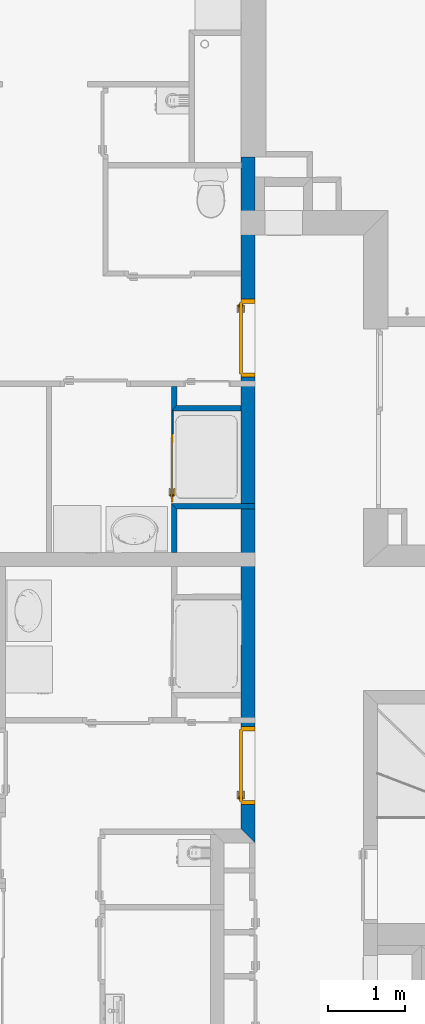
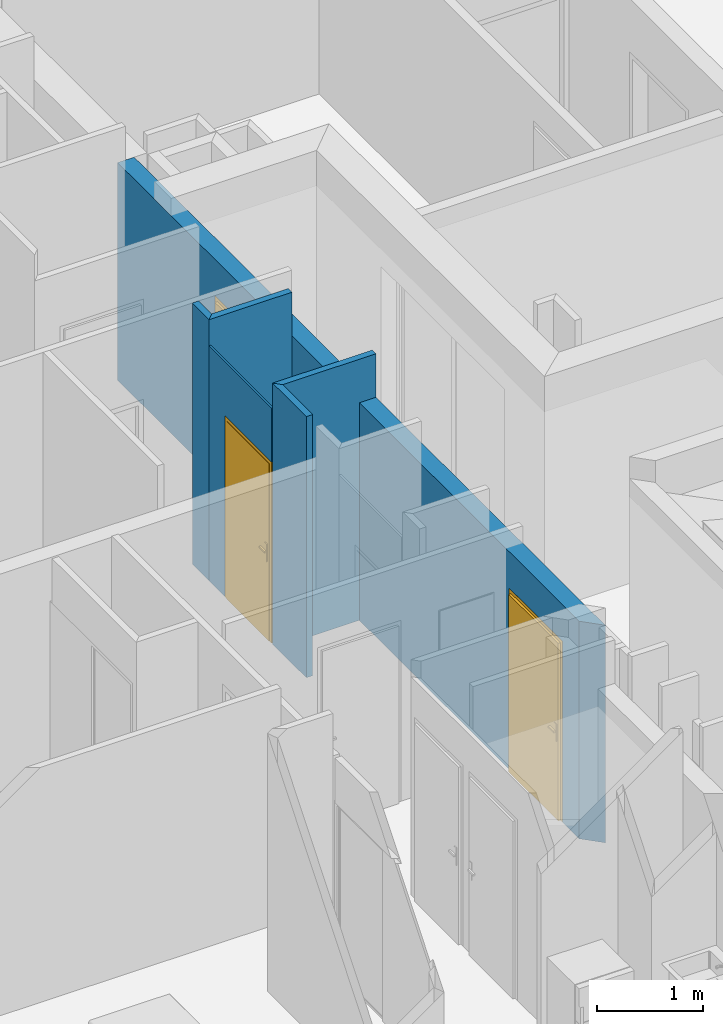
# One storey, part 51 of 171: 6 walls, 3 doors, 3 openings.
"""IFC2X3 building model written with IfcOpenShell, lengths in millimetres."""

from ifc_helpers import new_model, entity, si_unit, converted_unit, derived_unit, money_unit, direction, frame, origin_with_axes, origin_2d_with_axis, place, context, subcontext, project, spatial, polyline, rectangle, outline, extrude, faceted_brep, source, transform, mapped, material, layer, layer_set, layer_usage, type_object, element, fill, save


model = new_model("IFC2X3")

# Units and contexts
model_context = context("Model", 3, precision=0.01, world=origin_with_axes(), true_north=direction((0.0, 1.0)))
body_context = subcontext(model_context, "Body", "Model", "MODEL_VIEW")
ifc_project = project(units=[si_unit("LENGTHUNIT", "METRE", prefix="MILLI"), si_unit("AREAUNIT", "SQUARE_METRE"), si_unit("VOLUMEUNIT", "CUBIC_METRE"), converted_unit("PLANEANGLEUNIT", "DEGREE", entity("IfcPlaneAngleMeasure", 0.0174532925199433), si_unit("PLANEANGLEUNIT", "RADIAN"), dimensions=[0, 0, 0, 0, 0, 0, 0]), money_unit("USD"), converted_unit("TIMEUNIT", "Year", entity("IfcTimeMeasure", 31557600.0), si_unit("TIMEUNIT", "SECOND"), dimensions=[0, 0, 1, 0, 0, 0, 0]), si_unit("MASSUNIT", "GRAM", prefix="KILO"), si_unit("THERMODYNAMICTEMPERATUREUNIT", "DEGREE_CELSIUS"), si_unit("LUMINOUSINTENSITYUNIT", "LUMEN"), si_unit("ENERGYUNIT", "JOULE", prefix="MEGA"), derived_unit("THERMALCONDUCTANCEUNIT", [(si_unit("POWERUNIT", "WATT"), 1), (si_unit("LENGTHUNIT", "METRE"), -1), (si_unit("THERMODYNAMICTEMPERATUREUNIT", "KELVIN"), -1)]), derived_unit("SPECIFICHEATCAPACITYUNIT", [(si_unit("ENERGYUNIT", "JOULE"), 1), (si_unit("MASSUNIT", "GRAM", prefix="KILO"), -1), (si_unit("THERMODYNAMICTEMPERATUREUNIT", "KELVIN"), -1)]), derived_unit("MASSDENSITYUNIT", [(si_unit("MASSUNIT", "GRAM", prefix="KILO"), 1), (si_unit("VOLUMEUNIT", "CUBIC_METRE"), -1)])], contexts=[model_context])

# Site, building, storey
site_placement = place(None, origin_with_axes())
site = spatial("IfcSite", under=ifc_project, at=site_placement, Name="Site", CompositionType="ELEMENT")
building_placement = place(site_placement, origin_with_axes())
building = spatial("IfcBuilding", under=site, at=building_placement, Name="Bâtiment", CompositionType="ELEMENT")
storey_placement = place(building_placement, frame((0.0, 0.0, 3000.0), z_axis=(0.0, 0.0, 1.0), x_axis=(1.0, 0.0, 0.0)))
storey = spatial("IfcBuildingStorey", under=building, at=storey_placement, Name="rdc", CompositionType="ELEMENT", Elevation=3000.0)

# Wall, openings, doors
ifc_material_1 = material(Name="Parpaing 314940890")
ifc_layer_1 = layer(ifc_material_1, 180.0, ventilated="UNKNOWN")
ifc_layer_set_1 = layer_set([ifc_layer_1], Name="Beton  18 0018356637")
ifc_layer_usage_1 = layer_usage(ifc_layer_set_1, "AXIS2", "NEGATIVE", 0.0)
wall_type_1 = type_object("IfcWallType", Name="Beton  18 0018356637 180", PredefinedType="NOTDEFINED")
wall_1_placement = place(storey_placement, frame((2224312.317707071, -627247.3597870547, 0.0), z_axis=(0.0, 0.0, 1.0), x_axis=(9.28770174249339e-06, -0.9999999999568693, 0.0)))
wall_1 = element("IfcWallStandardCase", 1, at=wall_1_placement, inside=storey, type_object=wall_type_1, material=ifc_layer_usage_1, Name="Mur-143", context=body_context, shape_type="SweptSolid", body=[
    extrude(outline(polyline([(69.99832821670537, -179.9999999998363), (8759.937664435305, -179.9999999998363), (8939.939786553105, 0.0), (70.00000000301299, 0.0), (69.99832821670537, -179.9999999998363)])), origin_with_axes(), (0.0, 0.0, 1.0), 2500.0),
])
opening_1_placement = place(wall_1_placement, frame((2412.049602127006, 1.13686837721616e-10, 0.0), z_axis=(0.0, 0.0, 1.0), x_axis=(1.0, 0.0, 0.0)))
opening_1 = element("IfcOpeningElement", 2, at=opening_1_placement, cuts=wall_1, Name="Por-295", context=body_context, shape_type="SweptSolid", body=[
    extrude(rectangle(XDim=1010.00001192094, YDim=2080.0, at=origin_2d_with_axis()), frame((5.960465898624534e-06, 179.99999999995, 1040.0), z_axis=(0.0, 1.0, 0.0), x_axis=(1.0, 0.0, 0.0)), (0.0, 0.0, -1.0), 360.0),
])
opening_2_placement = place(wall_1_placement, frame((7941.747689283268, 0.0, 0.0), z_axis=(0.0, 0.0, 1.0), x_axis=(1.0, 0.0, 0.0)))
opening_2 = element("IfcOpeningElement", 3, at=opening_2_placement, cuts=wall_1, Name="Por-295", context=body_context, shape_type="SweptSolid", body=[
    extrude(rectangle(XDim=1010.00001192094, YDim=2080.0, at=origin_2d_with_axis()), frame((-5.960487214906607e-06, 179.99999999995, 1040.0), z_axis=(0.0, -1.0, 0.0), x_axis=(-1.0, 0.0, 0.0)), (0.0, 0.0, 1.0), 360.0),
])
door_style = type_object("IfcDoorStyle", Name="Porte_1v", ConstructionType="NOTDEFINED", OperationType="NOTDEFINED", ParameterTakesPrecedence=False, Sizeable=False)
shared_shape_1 = source(origin_with_axes(), body_context, "Body", "Brep", [
    faceted_brep([(504.9999999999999, 0.0, 0.0), (464.9999999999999, 0.0, 0.0), (464.9999999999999, 0.0, 2040.0), (-464.9999999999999, 0.0, 2040.0), (-464.9999999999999, 0.0, 0.0), (-504.9999999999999, 0.0, 0.0), (-504.9999999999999, 0.0, 2080.0), (504.9999999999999, 0.0, 2080.0), (504.9999999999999, -180.0, 0.0), (449.9999999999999, -180.0, 0.0), (449.9999999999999, -15.0, 0.0), (464.9999999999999, -15.0, 0.0), (464.9999999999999, -15.0, 2040.0), (-464.9999999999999, -15.0, 2040.0), (-464.9999999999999, -15.0, 0.0), (-449.9999999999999, -15.0, 0.0), (-449.9999999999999, -180.0, 0.0), (-504.9999999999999, -180.0, 0.0), (-504.9999999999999, -180.0, 2080.0), (504.9999999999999, -180.0, 2080.0), (-449.9999999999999, -180.0, 2025.0), (449.9999999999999, -180.0, 2025.0), (449.9999999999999, -15.0, 2025.0), (-449.9999999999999, -15.0, 2025.0)], [[[0, 1, 2, 3, 4, 5, 6, 7]], [[0, 8, 9, 10, 11, 1]], [[1, 11, 12, 2]], [[2, 12, 13, 3]], [[3, 13, 14, 4]], [[5, 4, 14, 15, 16, 17]], [[18, 6, 5, 17]], [[19, 7, 6, 18]], [[8, 0, 7, 19]], [[9, 8, 19, 18, 17, 16, 20, 21]], [[10, 9, 21, 22]], [[11, 10, 22, 23, 15, 14, 13, 12]], [[23, 20, 16, 15]], [[22, 21, 20, 23]]]),
    faceted_brep([(-399.9999999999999, -15.0, 900.0), (-439.9999999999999, -15.0, 900.0), (-439.9999999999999, -15.0, 1100.0), (-399.9999999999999, -15.0, 1100.0), (-399.9999999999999, -25.0, 900.0), (-439.9999999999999, -25.0, 900.0), (-439.9999999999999, -25.0, 1100.0), (-399.9999999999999, -25.0, 1100.0)], [[[0, 1, 2, 3]], [[1, 0, 4, 5]], [[2, 1, 5, 6]], [[3, 2, 6, 7]], [[0, 3, 7, 4]], [[5, 4, 7, 6]]]),
    faceted_brep([(-329.9999999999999, -25.0, 1000.0), (-429.9999999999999, -25.0, 1000.0), (-429.9999999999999, -25.0, 1020.0), (-329.9999999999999, -25.0, 1020.0), (-329.9999999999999, -44.99999999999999, 1000.0), (-429.9999999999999, -44.99999999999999, 1000.0), (-429.9999999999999, -44.99999999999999, 1020.0), (-329.9999999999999, -44.99999999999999, 1020.0)], [[[0, 1, 2, 3]], [[1, 0, 4, 5]], [[2, 1, 5, 6]], [[3, 2, 6, 7]], [[0, 3, 7, 4]], [[5, 4, 7, 6]]]),
    faceted_brep([(-399.9999999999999, 34.99999999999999, 900.0), (-439.9999999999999, 34.99999999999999, 900.0), (-439.9999999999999, 34.99999999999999, 1100.0), (-399.9999999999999, 34.99999999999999, 1100.0), (-399.9999999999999, 25.0, 900.0), (-439.9999999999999, 25.0, 900.0), (-439.9999999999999, 25.0, 1100.0), (-399.9999999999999, 25.0, 1100.0)], [[[0, 1, 2, 3]], [[1, 0, 4, 5]], [[2, 1, 5, 6]], [[3, 2, 6, 7]], [[0, 3, 7, 4]], [[5, 4, 7, 6]]]),
    faceted_brep([(-329.9999999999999, 55.0, 1000.0), (-429.9999999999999, 55.0, 1000.0), (-429.9999999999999, 55.0, 1020.0), (-329.9999999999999, 55.0, 1020.0), (-329.9999999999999, 34.99999999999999, 1000.0), (-429.9999999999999, 34.99999999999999, 1000.0), (-429.9999999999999, 34.99999999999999, 1020.0), (-329.9999999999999, 34.99999999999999, 1020.0)], [[[0, 1, 2, 3]], [[1, 0, 4, 5]], [[2, 1, 5, 6]], [[3, 2, 6, 7]], [[0, 3, 7, 4]], [[5, 4, 7, 6]]]),
    faceted_brep([(-464.9999999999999, 25.0, 0.0), (464.9999999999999, 25.0, 0.0), (464.9999999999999, -15.0, 0.0), (-464.9999999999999, -15.0, 0.0), (-464.9999999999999, 25.0, 2040.0), (464.9999999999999, 25.0, 2040.0), (464.9999999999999, -15.0, 2040.0), (-464.9999999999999, -15.0, 2040.0)], [[[0, 1, 2, 3]], [[0, 4, 5, 1]], [[1, 5, 6, 2]], [[3, 2, 6, 7]], [[4, 0, 3, 7]], [[5, 4, 7, 6]]]),
])
door_1_placement = place(opening_2_placement, frame((465.0000000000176, 1.13686837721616e-10, 0.0), z_axis=(0.0, 0.0, 1.0), x_axis=(-1.0, 0.0, 0.0)))
door_1 = element("IfcDoor", 4, at=door_1_placement, inside=storey, type_object=door_style, Name="Por-295", OverallHeight=2040.0, OverallWidth=930.0, context=body_context, shape_type="MappedRepresentation", body=[
    mapped(shared_shape_1, transform((465.0000000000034, 179.99999999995, 0.0))),
])
fill(opening_2, door_1)
shared_shape_2 = source(origin_with_axes(), body_context, "Body", "Brep", [
    faceted_brep([(-504.9999999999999, 0.0, 0.0), (-504.9999999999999, 0.0, 2080.0), (504.9999999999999, 0.0, 2080.0), (504.9999999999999, 0.0, 0.0), (464.9999999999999, 0.0, 0.0), (464.9999999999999, 0.0, 2040.0), (-464.9999999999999, 0.0, 2040.0), (-464.9999999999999, 0.0, 0.0), (-504.9999999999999, -180.0, 0.0), (-504.9999999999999, -180.0, 2080.0), (504.9999999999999, -180.0, 2080.0), (504.9999999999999, -180.0, 0.0), (449.9999999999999, -180.0, 0.0), (449.9999999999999, -15.0, 0.0), (464.9999999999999, -15.0, 0.0), (464.9999999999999, -15.0, 2040.0), (-464.9999999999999, -15.0, 2040.0), (-464.9999999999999, -15.0, 0.0), (-449.9999999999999, -15.0, 0.0), (-449.9999999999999, -180.0, 0.0), (-449.9999999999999, -180.0, 2025.0), (449.9999999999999, -180.0, 2025.0), (449.9999999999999, -15.0, 2025.0), (-449.9999999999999, -15.0, 2025.0)], [[[0, 1, 2, 3, 4, 5, 6, 7]], [[8, 9, 1, 0]], [[9, 10, 2, 1]], [[10, 11, 3, 2]], [[3, 11, 12, 13, 14, 4]], [[5, 4, 14, 15]], [[6, 5, 15, 16]], [[7, 6, 16, 17]], [[0, 7, 17, 18, 19, 8]], [[19, 20, 21, 12, 11, 10, 9, 8]], [[22, 13, 12, 21]], [[17, 16, 15, 14, 13, 22, 23, 18]], [[18, 23, 20, 19]], [[23, 22, 21, 20]]]),
    faceted_brep([(399.9999999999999, -15.0, 900.0), (399.9999999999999, -15.0, 1100.0), (439.9999999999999, -15.0, 1100.0), (439.9999999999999, -15.0, 900.0), (399.9999999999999, -25.0, 900.0), (399.9999999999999, -25.0, 1100.0), (439.9999999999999, -25.0, 1100.0), (439.9999999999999, -25.0, 900.0)], [[[0, 1, 2, 3]], [[0, 4, 5, 1]], [[1, 5, 6, 2]], [[2, 6, 7, 3]], [[3, 7, 4, 0]], [[7, 6, 5, 4]]]),
    faceted_brep([(329.9999999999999, -25.0, 1000.0), (329.9999999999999, -25.0, 1020.0), (429.9999999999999, -25.0, 1020.0), (429.9999999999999, -25.0, 1000.0), (329.9999999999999, -44.99999999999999, 1000.0), (329.9999999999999, -44.99999999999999, 1020.0), (429.9999999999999, -44.99999999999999, 1020.0), (429.9999999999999, -44.99999999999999, 1000.0)], [[[0, 1, 2, 3]], [[0, 4, 5, 1]], [[1, 5, 6, 2]], [[2, 6, 7, 3]], [[3, 7, 4, 0]], [[7, 6, 5, 4]]]),
    faceted_brep([(399.9999999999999, 34.99999999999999, 900.0), (399.9999999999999, 34.99999999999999, 1100.0), (439.9999999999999, 34.99999999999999, 1100.0), (439.9999999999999, 34.99999999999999, 900.0), (399.9999999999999, 25.0, 900.0), (399.9999999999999, 25.0, 1100.0), (439.9999999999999, 25.0, 1100.0), (439.9999999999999, 25.0, 900.0)], [[[0, 1, 2, 3]], [[0, 4, 5, 1]], [[1, 5, 6, 2]], [[2, 6, 7, 3]], [[3, 7, 4, 0]], [[7, 6, 5, 4]]]),
    faceted_brep([(329.9999999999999, 55.0, 1000.0), (329.9999999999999, 55.0, 1020.0), (429.9999999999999, 55.0, 1020.0), (429.9999999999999, 55.0, 1000.0), (329.9999999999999, 34.99999999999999, 1000.0), (329.9999999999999, 34.99999999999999, 1020.0), (429.9999999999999, 34.99999999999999, 1020.0), (429.9999999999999, 34.99999999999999, 1000.0)], [[[0, 1, 2, 3]], [[0, 4, 5, 1]], [[1, 5, 6, 2]], [[2, 6, 7, 3]], [[3, 7, 4, 0]], [[7, 6, 5, 4]]]),
    faceted_brep([(464.9999999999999, 25.0, 0.0), (464.9999999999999, -15.0, 0.0), (-464.9999999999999, -15.0, 0.0), (-464.9999999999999, 25.0, 0.0), (464.9999999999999, 25.0, 2040.0), (464.9999999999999, -15.0, 2040.0), (-464.9999999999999, -15.0, 2040.0), (-464.9999999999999, 25.0, 2040.0)], [[[0, 1, 2, 3]], [[4, 5, 1, 0]], [[1, 5, 6, 2]], [[3, 2, 6, 7]], [[0, 3, 7, 4]], [[7, 6, 5, 4]]]),
])
door_2_placement = place(opening_1_placement, frame((464.9999999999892, -1.13686837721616e-10, 0.0), z_axis=(0.0, 0.0, 1.0), x_axis=(-1.0, 0.0, 0.0)))
door_2 = element("IfcDoor", 5, at=door_2_placement, inside=storey, type_object=door_style, Name="Por-295", OverallHeight=2040.0, OverallWidth=930.0, context=body_context, shape_type="MappedRepresentation", body=[
    mapped(shared_shape_2, transform((464.9999999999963, 180.0000000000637, 0.0))),
])
fill(opening_1, door_2)

# Walls
ifc_material_2 = material(Name="Hachure solide 268963992")
ifc_layer_2 = layer(ifc_material_2, 70.0, ventilated="UNKNOWN")
ifc_layer_set_2 = layer_set([ifc_layer_2], Name="Cloison 70 0826278243")
ifc_layer_usage_2 = layer_usage(ifc_layer_set_2, "AXIS2", "NEGATIVE", 70.0)
wall_type_2 = type_object("IfcWallType", Name="Cloison 70 0826278243 70", PredefinedType="NOTDEFINED")
wall_2_placement = place(storey_placement, frame((2223232.318522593, -630212.9218533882, 0.0), z_axis=(0.0, 0.0, 1.0), x_axis=(-1.948421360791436e-07, -0.999999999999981, 0.0)))
element("IfcWallStandardCase", 6, at=wall_2_placement, inside=storey, type_object=wall_type_2, material=ifc_layer_usage_2, Name="Mur-149", context=body_context, shape_type="SweptSolid", body=[
    extrude(outline(polyline([(70.00004284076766, 0.0), (385.0320459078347, 0.0), (315.0320161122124, 70.00000000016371), (70.00002920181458, 70.00000000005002), (70.00004284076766, 0.0)])), origin_with_axes(), (0.0, 0.0, 1.0), 3000.0),
])
ifc_layer_usage_3 = layer_usage(ifc_layer_set_2, "AXIS2", "NEGATIVE", 70.0)
wall_3_placement = place(storey_placement, frame((2224313.165132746, -631797.9482855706, 0.0), z_axis=(0.0, 0.0, 1.0), x_axis=(-1.0, 0.0, 0.0)))
element("IfcWallStandardCase", 7, at=wall_3_placement, inside=storey, type_object=wall_type_2, material=ifc_layer_usage_3, Name="Mur-150", context=body_context, shape_type="SweptSolid", body=[
    extrude(outline(polyline([(0.0, 0.0), (1083.218645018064, 0.0), (1013.271887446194, 70.00000000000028), (0.0, 70.00000000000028), (0.0, 0.0)])), origin_with_axes(), (0.0, 0.0, 1.0), 3000.0),
])
ifc_layer_usage_4 = layer_usage(ifc_layer_set_2, "AXIS2", "POSITIVE", -70.0)
wall_4_placement = place(storey_placement, frame((2224312.34855468, -630597.953650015, 0.0), z_axis=(0.0, 0.0, 1.0), x_axis=(-0.9999999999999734, -2.308093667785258e-07, 0.0)))
element("IfcWallStandardCase", 8, at=wall_4_placement, inside=storey, type_object=wall_type_2, material=ifc_layer_usage_4, Name="Mur-149", context=body_context, shape_type="SweptSolid", body=[
    extrude(outline(polyline([(180.0003622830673, -70.00000000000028), (1010.030077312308, -70.00000000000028), (1080.030107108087, 0.0), (179.9997283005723, 0.0), (180.0003622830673, -70.00000000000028)])), origin_with_axes(), (0.0, 0.0, 1.0), 3000.0),
])
ifc_layer_usage_5 = layer_usage(ifc_layer_set_2, "AXIS2", "NEGATIVE", 70.0)
wall_5_placement = place(storey_placement, frame((2223229.946487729, -631797.9482855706, 0.0), z_axis=(0.0, 0.0, 1.0), x_axis=(-0.0007608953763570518, -0.9999997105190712, 0.0)))
element("IfcWallStandardCase", 9, at=wall_5_placement, inside=storey, type_object=wall_type_2, material=ifc_layer_usage_5, Name="Mur-150", context=body_context, shape_type="SweptSolid", body=[
    extrude(outline(polyline([(0.0, 0.0), (635.5731216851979, 1.13686837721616e-10), (635.5194359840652, 70.00000000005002), (69.9467575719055, 70.00000000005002), (0.0, 0.0)])), origin_with_axes(), (0.0, 0.0, 1.0), 3000.0),
])

# Wall, opening, door
ifc_material_3 = material(Name="Empty Fill 292498448")
ifc_layer_3 = layer(ifc_material_3, 20.0, ventilated="UNKNOWN")
ifc_layer_set_3 = layer_set([ifc_layer_3], Name="mur 2cm")
ifc_layer_usage_6 = layer_usage(ifc_layer_set_3, "AXIS2", "POSITIVE", -20.0)
wall_type_3 = type_object("IfcWallType", Name="mur 2cm 20", PredefinedType="NOTDEFINED")
wall_6_placement = place(storey_placement, frame((2223230.472747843, -631778.0628976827, 0.0), z_axis=(0.0, 0.0, 1.0), x_axis=(0.001564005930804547, 0.9999987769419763, 0.0)))
wall_6 = element("IfcWallStandardCase", 10, at=wall_6_placement, inside=storey, type_object=wall_type_3, material=ifc_layer_usage_6, Name="Mur-148", context=body_context, shape_type="SweptSolid", body=[
    extrude(outline(polyline([(0.0, -20.0000000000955), (1180.141726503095, -20.0000000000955), (1180.110441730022, 0.0), (0.0, 0.0), (0.0, -20.0000000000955)])), origin_with_axes(), (0.0, 0.0, 1.0), 2700.0),
])
opening_3_placement = place(wall_6_placement, frame((440.0000000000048, 1.13686837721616e-10, 0.0), z_axis=(0.0, 0.0, 1.0), x_axis=(1.0, 0.0, 0.0)))
opening_3 = element("IfcOpeningElement", 11, at=opening_3_placement, cuts=wall_6, Name="Por-288", context=body_context, shape_type="SweptSolid", body=[
    extrude(rectangle(XDim=880.0000119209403, YDim=2080.0, at=origin_2d_with_axis()), frame((5.960465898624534e-06, -20.0000000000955, 1040.0), z_axis=(0.0, 1.0, 0.0), x_axis=(1.0, 0.0, 0.0)), (0.0, 0.0, 1.0), 40.0),
])
shared_shape_3 = source(origin_with_axes(), body_context, "Body", "Brep", [
    faceted_brep([(440.0, 0.0, 0.0), (400.0, 0.0, 0.0), (400.0, 0.0, 2040.0), (-400.0, 0.0, 2040.0), (-400.0, 0.0, 0.0), (-440.0, 0.0, 0.0), (-440.0, 0.0, 2080.0), (440.0, 0.0, 2080.0), (440.0, -20.0, 0.0), (385.0, -20.0, 0.0), (385.0, -15.0, 0.0), (400.0, -15.0, 0.0), (400.0, -15.0, 2040.0), (-400.0, -15.0, 2040.0), (-400.0, -15.0, 0.0), (-385.0, -15.0, 0.0), (-385.0, -20.0, 0.0), (-440.0, -20.0, 0.0), (-440.0, -20.0, 2080.0), (440.0, -20.0, 2080.0), (-385.0, -20.0, 2025.0), (385.0, -20.0, 2025.0), (385.0, -15.0, 2025.0), (-385.0, -15.0, 2025.0)], [[[0, 1, 2, 3, 4, 5, 6, 7]], [[0, 8, 9, 10, 11, 1]], [[1, 11, 12, 2]], [[2, 12, 13, 3]], [[3, 13, 14, 4]], [[5, 4, 14, 15, 16, 17]], [[18, 6, 5, 17]], [[19, 7, 6, 18]], [[8, 0, 7, 19]], [[9, 8, 19, 18, 17, 16, 20, 21]], [[10, 9, 21, 22]], [[11, 10, 22, 23, 15, 14, 13, 12]], [[23, 20, 16, 15]], [[22, 21, 20, 23]]]),
    faceted_brep([(-335.0, -15.0, 900.0), (-375.0, -15.0, 900.0), (-375.0, -15.0, 1100.0), (-335.0, -15.0, 1100.0), (-335.0, -25.0, 900.0), (-375.0, -25.0, 900.0), (-375.0, -25.0, 1100.0), (-335.0, -25.0, 1100.0)], [[[0, 1, 2, 3]], [[1, 0, 4, 5]], [[2, 1, 5, 6]], [[3, 2, 6, 7]], [[0, 3, 7, 4]], [[5, 4, 7, 6]]]),
    faceted_brep([(-265.0, -25.0, 1000.0), (-365.0, -25.0, 1000.0), (-365.0, -25.0, 1020.0), (-265.0, -25.0, 1020.0), (-265.0, -45.0, 1000.0), (-365.0, -45.0, 1000.0), (-365.0, -45.0, 1020.0), (-265.0, -45.0, 1020.0)], [[[0, 1, 2, 3]], [[1, 0, 4, 5]], [[2, 1, 5, 6]], [[3, 2, 6, 7]], [[0, 3, 7, 4]], [[5, 4, 7, 6]]]),
    faceted_brep([(-335.0, 15.0, 900.0), (-375.0, 15.0, 900.0), (-375.0, 15.0, 1100.0), (-335.0, 15.0, 1100.0), (-335.0, 5.000000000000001, 900.0), (-375.0, 5.000000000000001, 900.0), (-375.0, 5.000000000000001, 1100.0), (-335.0, 5.000000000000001, 1100.0)], [[[0, 1, 2, 3]], [[1, 0, 4, 5]], [[2, 1, 5, 6]], [[3, 2, 6, 7]], [[0, 3, 7, 4]], [[5, 4, 7, 6]]]),
    faceted_brep([(-265.0, 35.0, 1000.0), (-365.0, 35.0, 1000.0), (-365.0, 35.0, 1020.0), (-265.0, 35.0, 1020.0), (-265.0, 15.0, 1000.0), (-365.0, 15.0, 1000.0), (-365.0, 15.0, 1020.0), (-265.0, 15.0, 1020.0)], [[[0, 1, 2, 3]], [[1, 0, 4, 5]], [[2, 1, 5, 6]], [[3, 2, 6, 7]], [[0, 3, 7, 4]], [[5, 4, 7, 6]]]),
    faceted_brep([(-400.0, 5.000000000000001, 0.0), (400.0, 5.000000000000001, 0.0), (400.0, -15.0, 0.0), (-400.0, -15.0, 0.0), (-400.0, 5.000000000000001, 2040.0), (400.0, 5.000000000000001, 2040.0), (400.0, -15.0, 2040.0), (-400.0, -15.0, 2040.0)], [[[0, 1, 2, 3]], [[0, 4, 5, 1]], [[1, 5, 6, 2]], [[3, 2, 6, 7]], [[4, 0, 3, 7]], [[5, 4, 7, 6]]]),
])
door_3_placement = place(opening_3_placement, frame((-399.9999999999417, 1.13686837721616e-10, 0.0), z_axis=(0.0, 0.0, 1.0), x_axis=(1.0, 0.0, 0.0)))
door_3 = element("IfcDoor", 12, at=door_3_placement, inside=storey, type_object=door_style, Name="Por-288", OverallHeight=2040.0, OverallWidth=800.0, context=body_context, shape_type="MappedRepresentation", body=[
    mapped(shared_shape_3, transform((399.9999999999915, 0.0, 0.0))),
])
fill(opening_3, door_3)

save(model, "model.ifc")
